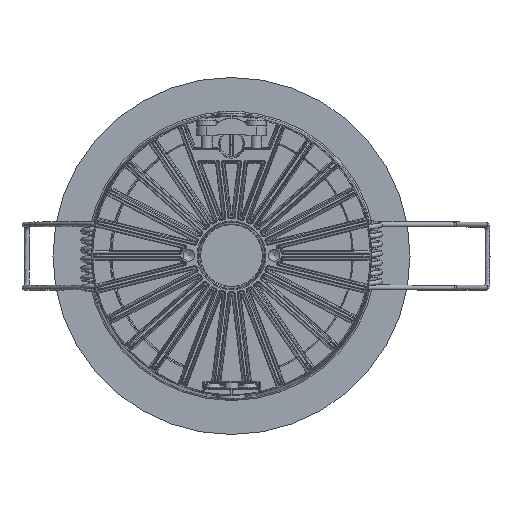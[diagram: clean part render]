
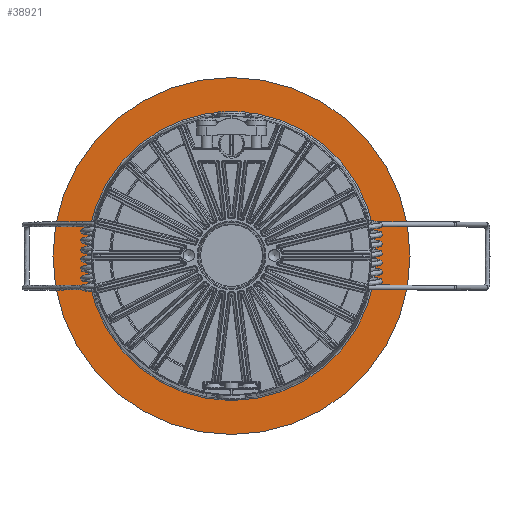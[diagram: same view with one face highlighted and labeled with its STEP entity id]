
A CAD part, top view. The second image highlights one B-rep face of the part: STEP entity #38921.
In plain terms, the highlighted planar face has unit normal (0, 0, 1).
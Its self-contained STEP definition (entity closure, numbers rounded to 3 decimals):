
#5713=CIRCLE('',#41852,40.765);
#5714=CIRCLE('',#41853,50.344);
#13566=ORIENTED_EDGE('',*,*,#17798,.T.);
#13567=ORIENTED_EDGE('',*,*,#17799,.F.);
#17798=EDGE_CURVE('',#20215,#20215,#5713,.T.);
#17799=EDGE_CURVE('',#20216,#20216,#5714,.T.);
#20215=VERTEX_POINT('',#79978);
#20216=VERTEX_POINT('',#79980);
#22697=EDGE_LOOP('',(#13566));
#22698=EDGE_LOOP('',(#13567));
#24583=FACE_BOUND('',#22697,.T.);
#24584=FACE_BOUND('',#22698,.T.);
#24975=PLANE('',#41851);
#38921=ADVANCED_FACE('',(#24583,#24584),#24975,.T.);
#41851=AXIS2_PLACEMENT_3D('',#79976,#48554,#48555);
#41852=AXIS2_PLACEMENT_3D('',#79977,#48556,#48557);
#41853=AXIS2_PLACEMENT_3D('',#79979,#48558,#48559);
#48554=DIRECTION('',(0.,0.,1.));
#48555=DIRECTION('',(1.,0.,0.));
#48556=DIRECTION('',(0.,0.,-1.));
#48557=DIRECTION('',(1.,0.,0.));
#48558=DIRECTION('',(0.,0.,-1.));
#48559=DIRECTION('',(1.,0.,0.));
#79976=CARTESIAN_POINT('',(0.,50.278,-65.95));
#79977=CARTESIAN_POINT('',(0.,0.,-65.95));
#79978=CARTESIAN_POINT('',(40.765,0.,-65.95));
#79979=CARTESIAN_POINT('',(0.,0.,-65.95));
#79980=CARTESIAN_POINT('',(50.344,0.,-65.95));
